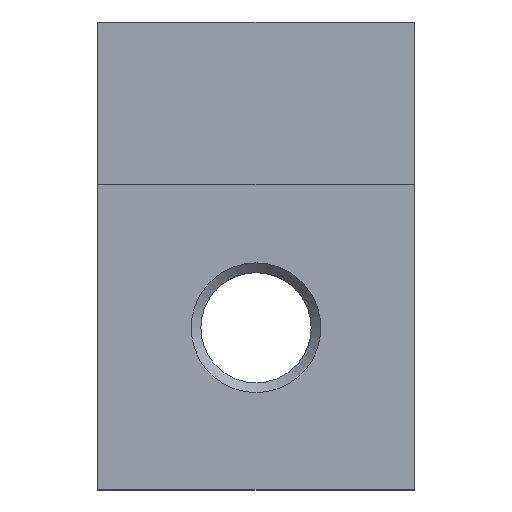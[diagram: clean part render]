
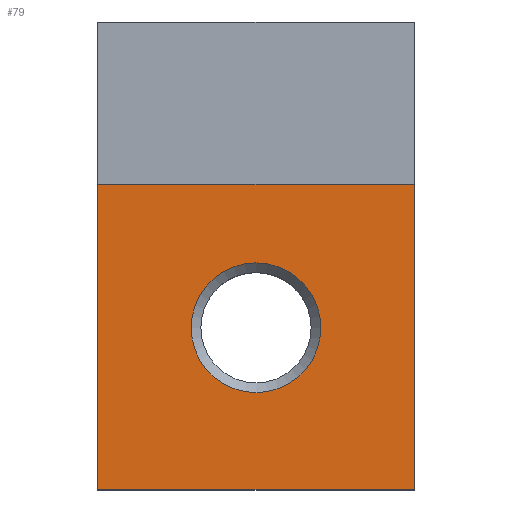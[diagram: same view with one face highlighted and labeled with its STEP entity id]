
A CAD part, top view. The second image highlights one B-rep face of the part: STEP entity #79.
In plain terms, the highlighted planar face has unit normal (0, 0, 1).
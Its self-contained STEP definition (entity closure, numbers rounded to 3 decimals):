
#46=FACE_BOUND('',#117,.T.);
#47=FACE_BOUND('',#118,.T.);
#68=CIRCLE('',#344,4.);
#79=ADVANCED_FACE('',(#46,#47),#96,.F.);
#96=PLANE('',#345);
#117=EDGE_LOOP('',(#175));
#118=EDGE_LOOP('',(#176,#177,#178,#179));
#175=ORIENTED_EDGE('',*,*,#269,.T.);
#176=ORIENTED_EDGE('',*,*,#260,.F.);
#177=ORIENTED_EDGE('',*,*,#270,.T.);
#178=ORIENTED_EDGE('',*,*,#246,.F.);
#179=ORIENTED_EDGE('',*,*,#271,.F.);
#218=VERTEX_POINT('',#460);
#219=VERTEX_POINT('',#462);
#230=VERTEX_POINT('',#487);
#231=VERTEX_POINT('',#489);
#235=VERTEX_POINT('',#506);
#246=EDGE_CURVE('',#218,#219,#284,.T.);
#260=EDGE_CURVE('',#230,#231,#294,.T.);
#269=EDGE_CURVE('',#235,#235,#68,.T.);
#270=EDGE_CURVE('',#230,#219,#300,.T.);
#271=EDGE_CURVE('',#231,#218,#301,.T.);
#284=LINE('',#461,#310);
#294=LINE('',#488,#320);
#300=LINE('',#507,#326);
#301=LINE('',#508,#327);
#310=VECTOR('',#370,1.);
#320=VECTOR('',#390,1.);
#326=VECTOR('',#412,1.);
#327=VECTOR('',#413,1.);
#344=AXIS2_PLACEMENT_3D('',#505,#410,#411);
#345=AXIS2_PLACEMENT_3D('',#509,#414,#415);
#370=DIRECTION('',(0.,1.,0.));
#390=DIRECTION('',(0.,-1.,0.));
#410=DIRECTION('',(0.,0.,-1.));
#411=DIRECTION('',(-1.,0.,0.));
#412=DIRECTION('',(-1.,0.,0.));
#413=DIRECTION('',(-1.,0.,0.));
#414=DIRECTION('',(0.,0.,-1.));
#415=DIRECTION('',(-1.,0.,0.));
#460=CARTESIAN_POINT('',(0.,-23.75,5.));
#461=CARTESIAN_POINT('',(0.,-23.75,5.));
#462=CARTESIAN_POINT('',(0.,-1.,5.));
#487=CARTESIAN_POINT('',(19.5,-1.,5.));
#488=CARTESIAN_POINT('',(19.5,5.,5.));
#489=CARTESIAN_POINT('',(19.5,-23.75,5.));
#505=CARTESIAN_POINT('',(9.75,-13.75,5.));
#506=CARTESIAN_POINT('',(5.75,-13.75,5.));
#507=CARTESIAN_POINT('',(0.,-1.,5.));
#508=CARTESIAN_POINT('',(19.5,-23.75,5.));
#509=CARTESIAN_POINT('',(0.,0.,5.));
